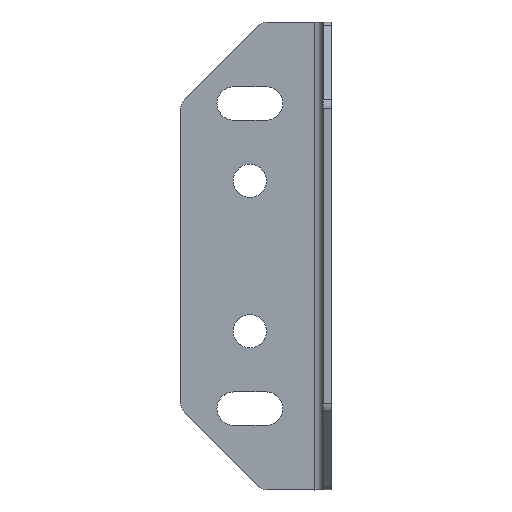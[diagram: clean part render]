
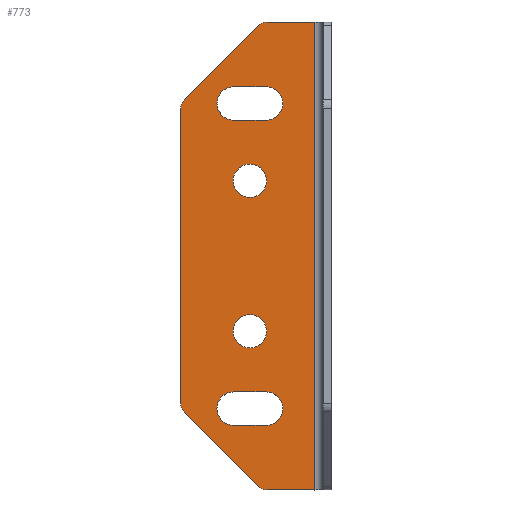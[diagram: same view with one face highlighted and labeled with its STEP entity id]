
A CAD part, top view. The second image highlights one B-rep face of the part: STEP entity #773.
In plain terms, the highlighted planar face has unit normal (0, 0, 1).
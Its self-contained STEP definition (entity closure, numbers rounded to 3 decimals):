
#31=FACE_BOUND('',#126,.T.);
#32=FACE_BOUND('',#127,.T.);
#33=FACE_BOUND('',#128,.T.);
#34=FACE_BOUND('',#129,.T.);
#51=PLANE('',#861);
#79=FACE_OUTER_BOUND('',#125,.T.);
#125=EDGE_LOOP('',(#590,#591,#592,#593,#594,#595,#596,#597,#598,#599));
#126=EDGE_LOOP('',(#600,#601,#602,#603));
#127=EDGE_LOOP('',(#604));
#128=EDGE_LOOP('',(#605,#606,#607,#608));
#129=EDGE_LOOP('',(#609));
#166=LINE('',#1152,#233);
#170=LINE('',#1163,#237);
#173=LINE('',#1174,#240);
#178=LINE('',#1188,#245);
#194=LINE('',#1253,#261);
#197=LINE('',#1259,#264);
#198=LINE('',#1261,#265);
#199=LINE('',#1263,#266);
#200=LINE('',#1267,#267);
#201=LINE('',#1271,#268);
#233=VECTOR('',#917,10.);
#237=VECTOR('',#929,10.);
#240=VECTOR('',#940,10.);
#245=VECTOR('',#953,10.);
#261=VECTOR('',#1015,10.);
#264=VECTOR('',#1020,10.);
#265=VECTOR('',#1021,10.);
#266=VECTOR('',#1022,10.);
#267=VECTOR('',#1025,10.);
#268=VECTOR('',#1028,10.);
#298=CIRCLE('',#823,4.1);
#300=CIRCLE('',#827,4.1);
#302=CIRCLE('',#831,4.1);
#304=CIRCLE('',#835,4.1);
#306=CIRCLE('',#839,4.1);
#308=CIRCLE('',#842,4.1);
#320=CIRCLE('',#858,3.);
#322=CIRCLE('',#862,3.);
#323=CIRCLE('',#863,3.);
#324=CIRCLE('',#864,3.);
#340=VERTEX_POINT('',#1142);
#341=VERTEX_POINT('',#1143);
#344=VERTEX_POINT('',#1151);
#346=VERTEX_POINT('',#1157);
#348=VERTEX_POINT('',#1166);
#350=VERTEX_POINT('',#1172);
#351=VERTEX_POINT('',#1173);
#354=VERTEX_POINT('',#1181);
#356=VERTEX_POINT('',#1187);
#358=VERTEX_POINT('',#1196);
#378=VERTEX_POINT('',#1243);
#379=VERTEX_POINT('',#1244);
#382=VERTEX_POINT('',#1252);
#384=VERTEX_POINT('',#1258);
#385=VERTEX_POINT('',#1260);
#386=VERTEX_POINT('',#1262);
#387=VERTEX_POINT('',#1264);
#388=VERTEX_POINT('',#1266);
#389=VERTEX_POINT('',#1268);
#390=VERTEX_POINT('',#1270);
#410=EDGE_CURVE('',#340,#341,#298,.T.);
#414=EDGE_CURVE('',#344,#340,#166,.T.);
#417=EDGE_CURVE('',#346,#344,#300,.T.);
#420=EDGE_CURVE('',#341,#346,#170,.T.);
#422=EDGE_CURVE('',#348,#348,#302,.T.);
#425=EDGE_CURVE('',#350,#351,#173,.T.);
#429=EDGE_CURVE('',#354,#350,#304,.T.);
#432=EDGE_CURVE('',#356,#354,#178,.T.);
#435=EDGE_CURVE('',#351,#356,#306,.T.);
#437=EDGE_CURVE('',#358,#358,#308,.T.);
#460=EDGE_CURVE('',#378,#379,#320,.T.);
#464=EDGE_CURVE('',#379,#382,#194,.T.);
#467=EDGE_CURVE('',#378,#384,#197,.T.);
#468=EDGE_CURVE('',#384,#385,#198,.T.);
#469=EDGE_CURVE('',#385,#386,#199,.T.);
#470=EDGE_CURVE('',#387,#386,#322,.T.);
#471=EDGE_CURVE('',#388,#387,#200,.T.);
#472=EDGE_CURVE('',#389,#388,#323,.T.);
#473=EDGE_CURVE('',#389,#390,#201,.T.);
#474=EDGE_CURVE('',#382,#390,#324,.T.);
#590=ORIENTED_EDGE('',*,*,#460,.F.);
#591=ORIENTED_EDGE('',*,*,#467,.T.);
#592=ORIENTED_EDGE('',*,*,#468,.T.);
#593=ORIENTED_EDGE('',*,*,#469,.T.);
#594=ORIENTED_EDGE('',*,*,#470,.F.);
#595=ORIENTED_EDGE('',*,*,#471,.F.);
#596=ORIENTED_EDGE('',*,*,#472,.F.);
#597=ORIENTED_EDGE('',*,*,#473,.T.);
#598=ORIENTED_EDGE('',*,*,#474,.F.);
#599=ORIENTED_EDGE('',*,*,#464,.F.);
#600=ORIENTED_EDGE('',*,*,#410,.T.);
#601=ORIENTED_EDGE('',*,*,#420,.T.);
#602=ORIENTED_EDGE('',*,*,#417,.T.);
#603=ORIENTED_EDGE('',*,*,#414,.T.);
#604=ORIENTED_EDGE('',*,*,#422,.T.);
#605=ORIENTED_EDGE('',*,*,#425,.T.);
#606=ORIENTED_EDGE('',*,*,#435,.T.);
#607=ORIENTED_EDGE('',*,*,#432,.T.);
#608=ORIENTED_EDGE('',*,*,#429,.T.);
#609=ORIENTED_EDGE('',*,*,#437,.T.);
#773=ADVANCED_FACE('',(#79,#31,#32,#33,#34),#51,.T.);
#823=AXIS2_PLACEMENT_3D('',#1144,#909,#910);
#827=AXIS2_PLACEMENT_3D('',#1158,#922,#923);
#831=AXIS2_PLACEMENT_3D('',#1167,#933,#934);
#835=AXIS2_PLACEMENT_3D('',#1182,#946,#947);
#839=AXIS2_PLACEMENT_3D('',#1193,#958,#959);
#842=AXIS2_PLACEMENT_3D('',#1197,#964,#965);
#858=AXIS2_PLACEMENT_3D('',#1245,#1007,#1008);
#861=AXIS2_PLACEMENT_3D('',#1257,#1018,#1019);
#862=AXIS2_PLACEMENT_3D('',#1265,#1023,#1024);
#863=AXIS2_PLACEMENT_3D('',#1269,#1026,#1027);
#864=AXIS2_PLACEMENT_3D('',#1272,#1029,#1030);
#909=DIRECTION('center_axis',(0.,0.,
-1.));
#910=DIRECTION('ref_axis',(0.,-1.,0.));
#917=DIRECTION('',(1.,0.,0.));
#922=DIRECTION('center_axis',(0.,0.,
-1.));
#923=DIRECTION('ref_axis',(0.,1.,0.));
#929=DIRECTION('',(-1.,0.,0.));
#933=DIRECTION('center_axis',(0.,0.,
-1.));
#934=DIRECTION('ref_axis',(1.,0.,0.));
#940=DIRECTION('',(-1.,0.,0.));
#946=DIRECTION('center_axis',(0.,0.,
-1.));
#947=DIRECTION('ref_axis',(0.,-1.,0.));
#953=DIRECTION('',(1.,0.,0.));
#958=DIRECTION('center_axis',(0.,0.,
-1.));
#959=DIRECTION('ref_axis',(0.,1.,0.));
#964=DIRECTION('center_axis',(0.,0.,
-1.));
#965=DIRECTION('ref_axis',(1.,0.,0.));
#1007=DIRECTION('center_axis',(0.,0.,
-1.));
#1008=DIRECTION('ref_axis',(-0.383,-0.924,0.));
#1015=DIRECTION('',(-0.707,0.707,0.));
#1018=DIRECTION('center_axis',(0.,0.,
1.));
#1019=DIRECTION('ref_axis',(1.,0.,0.));
#1020=DIRECTION('',(1.,0.,0.));
#1021=DIRECTION('',(0.,1.,0.));
#1022=DIRECTION('',(-1.,0.,0.));
#1023=DIRECTION('center_axis',(0.,0.,
-1.));
#1024=DIRECTION('ref_axis',(-0.383,0.924,0.));
#1025=DIRECTION('',(0.707,0.707,0.));
#1026=DIRECTION('center_axis',(0.,0.,
-1.));
#1027=DIRECTION('ref_axis',(-0.924,0.383,0.));
#1028=DIRECTION('',(0.,-1.,0.));
#1029=DIRECTION('center_axis',(0.,0.,
-1.));
#1030=DIRECTION('ref_axis',(-0.924,-0.383,0.));
#1142=CARTESIAN_POINT('',(10.3,-557.9,2.));
#1143=CARTESIAN_POINT('',(10.3,-566.1,2.));
#1144=CARTESIAN_POINT('Origin',(10.3,-562.,2.));
#1151=CARTESIAN_POINT('',(2.3,-557.9,2.));
#1152=CARTESIAN_POINT('',(3.3,-557.9,2.));
#1157=CARTESIAN_POINT('',(2.3,-566.1,2.));
#1158=CARTESIAN_POINT('Origin',(2.3,-562.,2.));
#1163=CARTESIAN_POINT('',(7.3,-566.1,2.));
#1166=CARTESIAN_POINT('',(2.2,-506.,2.));
#1167=CARTESIAN_POINT('Origin',(6.3,-506.,2.));
#1172=CARTESIAN_POINT('',(10.3,-491.1,2.));
#1173=CARTESIAN_POINT('',(2.3,-491.1,2.));
#1174=CARTESIAN_POINT('',(7.3,-491.1,2.));
#1181=CARTESIAN_POINT('',(10.3,-482.9,2.));
#1182=CARTESIAN_POINT('Origin',(10.3,-487.,2.));
#1187=CARTESIAN_POINT('',(2.3,-482.9,2.));
#1188=CARTESIAN_POINT('',(3.3,-482.9,2.));
#1193=CARTESIAN_POINT('Origin',(2.3,-487.,2.));
#1196=CARTESIAN_POINT('',(2.2,-543.,2.));
#1197=CARTESIAN_POINT('Origin',(6.3,-543.,2.));
#1243=CARTESIAN_POINT('',(10.543,-582.,2.));
#1244=CARTESIAN_POINT('',(8.421,-581.121,2.));
#1245=CARTESIAN_POINT('Origin',(10.543,-579.,2.));
#1252=CARTESIAN_POINT('',(-9.821,-562.879,2.));
#1253=CARTESIAN_POINT('',(-11.325,-561.375,2.));
#1257=CARTESIAN_POINT('Origin',(4.3,-524.5,2.));
#1258=CARTESIAN_POINT('',(22.3,-582.,2.));
#1259=CARTESIAN_POINT('',(-11.7,-582.,2.));
#1260=CARTESIAN_POINT('',(22.3,-467.,2.));
#1261=CARTESIAN_POINT('',(22.3,-582.,2.));
#1262=CARTESIAN_POINT('',(10.543,-467.,2.));
#1263=CARTESIAN_POINT('',(22.3,-467.,2.));
#1264=CARTESIAN_POINT('',(8.421,-467.879,2.));
#1265=CARTESIAN_POINT('Origin',(10.543,-470.,2.));
#1266=CARTESIAN_POINT('',(-9.821,-486.121,2.));
#1267=CARTESIAN_POINT('',(-11.325,-487.625,2.));
#1268=CARTESIAN_POINT('',(-10.7,-488.243,2.));
#1269=CARTESIAN_POINT('Origin',(-7.7,-488.243,2.));
#1270=CARTESIAN_POINT('',(-10.7,-560.757,2.));
#1271=CARTESIAN_POINT('',(-10.7,-495.75,2.));
#1272=CARTESIAN_POINT('Origin',(-7.7,-560.757,2.));
